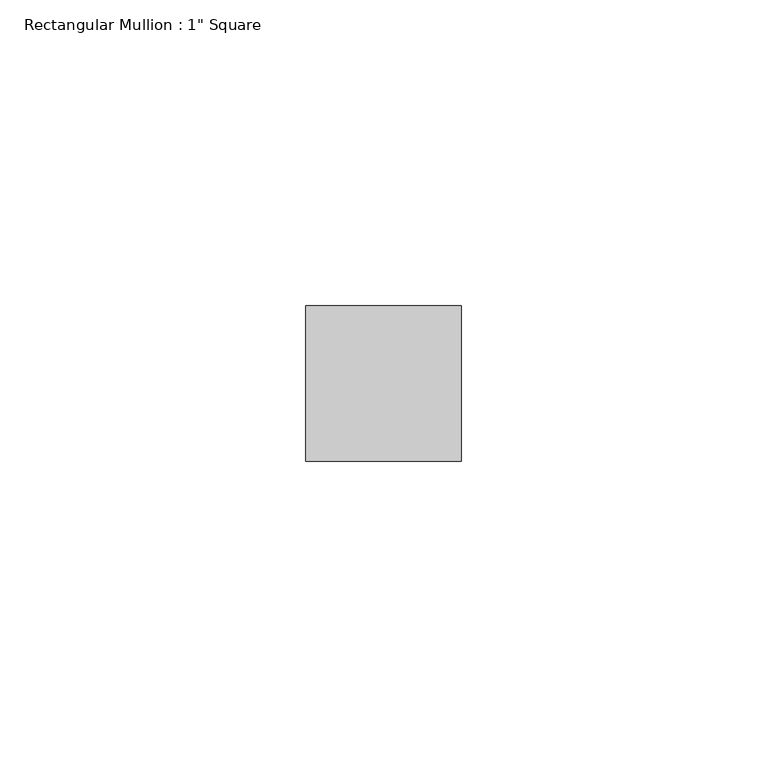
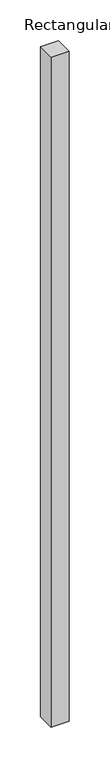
"""IFC4 building model written with IfcOpenShell, lengths in millimetres: member geometry."""

from ifc_helpers import new_model, si_unit, frame, origin, place, context, project, spatial, polyline, outline, extrude, source, transform, mapped, element, save


def member_40c6cd9d(model_context):
    return source(origin(), model_context, "Body", "SweptSolid", [
        extrude(outline(polyline([(12.7, 12.7), (12.7, -12.7), (-12.7, -12.7), (-12.7, 12.7), (12.7, 12.7)])), frame((0.0, 0.0, -1001.2488818), z_axis=(0.0, 0.0, 1.0), x_axis=(1.0, 0.0, 0.0)), (0.0, 0.0, 1.0), 1001.2488818),
    ])


if __name__ == "__main__":
    model = new_model("IFC4")
    model_context = context("Model", 3, world=origin())
    ifc_project = project(units=[si_unit("LENGTHUNIT", "METRE", prefix="MILLI")], contexts=[model_context])
    site = spatial("IfcSite", under=ifc_project)
    building = spatial("IfcBuilding", under=site)
    placement = place(None, origin())
    member_shape = member_40c6cd9d(model_context)
    element("IfcMember", 1, ObjectType="Rectangular Mullion : 1\" Square", at=placement, inside=building, context=model_context, shape_type="MappedRepresentation", body=[
        mapped(member_shape, transform((0.0, 0.0, 0.0), x_axis=(1.0, 0.0, 0.0), y_axis=(0.0, 1.0, 0.0), z_axis=(0.0, 0.0, 1.0))),
    ])
    save(model, "model.ifc")
